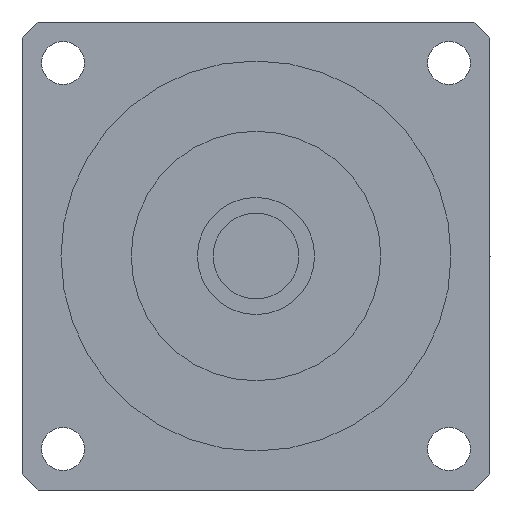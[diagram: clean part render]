
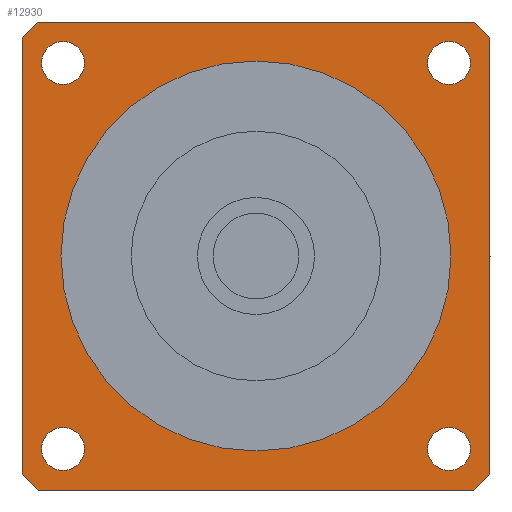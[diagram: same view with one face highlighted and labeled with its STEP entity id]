
A CAD part, left-side view. The second image highlights one B-rep face of the part: STEP entity #12930.
In plain terms, the highlighted planar face has unit normal (-1, 0, 0) as drawn and (0, 0, -1) by its records, which use the part's own axes.
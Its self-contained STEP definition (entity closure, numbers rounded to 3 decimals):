
#8790=CARTESIAN_POINT('',(-24.749,-21.999,-35.5));
#8800=VERTEX_POINT('',#8790);
#8830=CARTESIAN_POINT('',(-24.749,-24.749,-35.5));
#8840=DIRECTION('',(0.,0.,-1.));
#8850=DIRECTION('',(0.,-1.,0.));
#8860=AXIS2_PLACEMENT_3D('',#8830,#8840,#8850);
#8870=CIRCLE('',#8860,2.75);
#8880=CARTESIAN_POINT('',(-24.749,-27.499,-35.5));
#8890=VERTEX_POINT('',#8880);
#8900=EDGE_CURVE('',#8890,#8800,#8870,.T.);
#9140=CARTESIAN_POINT('',(30.,-27.946,-35.5));
#9150=VERTEX_POINT('',#9140);
#9200=CARTESIAN_POINT('',(0.,0.,
-35.5));
#9210=DIRECTION('',(0.,0.,-1.));
#9220=DIRECTION('',(0.,-1.,0.));
#9230=AXIS2_PLACEMENT_3D('',#9200,#9210,#9220);
#9240=CIRCLE('',#9230,41.);
#9250=CARTESIAN_POINT('',(27.946,-30.,-35.5));
#9260=VERTEX_POINT('',#9250);
#9270=EDGE_CURVE('',#9150,#9260,#9240,.T.);
#11440=CARTESIAN_POINT('',(0.,-25.,-35.5));
#11450=VERTEX_POINT('',#11440);
#11480=CARTESIAN_POINT('',(0.,0.,
-35.5));
#11490=DIRECTION('',(0.,0.,1.));
#11500=DIRECTION('',(1.,0.,0.));
#11510=AXIS2_PLACEMENT_3D('',#11480,#11490,#11500);
#11520=CIRCLE('',#11510,25.);
#11530=CARTESIAN_POINT('',(25.,0.,-35.5));
#11540=VERTEX_POINT('',#11530);
#11550=EDGE_CURVE('',#11450,#11540,#11520,.T.);
#11570=CARTESIAN_POINT('',(0.,25.,-35.5));
#11580=VERTEX_POINT('',#11570);
#11590=EDGE_CURVE('',#11540,#11580,#11520,.T.);
#11720=CARTESIAN_POINT('',(30.,-30.,-35.5));
#11730=DIRECTION('',(0.,0.,-1.));
#11740=DIRECTION('',(0.,-1.,0.));
#11750=AXIS2_PLACEMENT_3D('',#11720,#11730,#11740);
#11760=PLANE('',#11750);
#11770=CARTESIAN_POINT('',(-24.749,24.749,-35.5));
#11780=DIRECTION('',(0.,0.,-1.));
#11790=DIRECTION('',(-1.,0.,0.));
#11800=AXIS2_PLACEMENT_3D('',#11770,#11780,#11790);
#11810=CIRCLE('',#11800,2.75);
#11820=CARTESIAN_POINT('',(-27.499,24.749,-35.5));
#11830=VERTEX_POINT('',#11820);
#11840=CARTESIAN_POINT('',(-21.999,24.749,-35.5));
#11850=VERTEX_POINT('',#11840);
#11860=EDGE_CURVE('',#11830,#11850,#11810,.T.);
#11870=ORIENTED_EDGE('',*,*,#11860,.F.);
#11880=EDGE_CURVE('',#11850,#11830,#11810,.T.);
#11890=ORIENTED_EDGE('',*,*,#11880,.F.);
#11900=EDGE_LOOP('',(#11890,#11870));
#11910=FACE_BOUND('',#11900,.T.);
#11920=CARTESIAN_POINT('',(24.749,24.749,-35.5));
#11930=DIRECTION('',(0.,0.,-1.));
#11940=DIRECTION('',(0.,1.,0.));
#11950=AXIS2_PLACEMENT_3D('',#11920,#11930,#11940);
#11960=CIRCLE('',#11950,2.75);
#11970=CARTESIAN_POINT('',(24.749,27.499,-35.5));
#11980=VERTEX_POINT('',#11970);
#11990=CARTESIAN_POINT('',(24.749,21.999,-35.5));
#12000=VERTEX_POINT('',#11990);
#12010=EDGE_CURVE('',#11980,#12000,#11960,.T.);
#12020=ORIENTED_EDGE('',*,*,#12010,.F.);
#12030=EDGE_CURVE('',#12000,#11980,#11960,.T.);
#12040=ORIENTED_EDGE('',*,*,#12030,.F.);
#12050=EDGE_LOOP('',(#12040,#12020));
#12060=FACE_BOUND('',#12050,.T.);
#12070=CARTESIAN_POINT('',(24.749,-24.749,-35.5));
#12080=DIRECTION('',(0.,0.,-1.));
#12090=DIRECTION('',(1.,0.,0.));
#12100=AXIS2_PLACEMENT_3D('',#12070,#12080,#12090);
#12110=CIRCLE('',#12100,2.75);
#12120=CARTESIAN_POINT('',(27.499,-24.749,-35.5));
#12130=VERTEX_POINT('',#12120);
#12140=CARTESIAN_POINT('',(21.999,-24.749,-35.5));
#12150=VERTEX_POINT('',#12140);
#12160=EDGE_CURVE('',#12130,#12150,#12110,.T.);
#12170=ORIENTED_EDGE('',*,*,#12160,.F.);
#12180=EDGE_CURVE('',#12150,#12130,#12110,.T.);
#12190=ORIENTED_EDGE('',*,*,#12180,.F.);
#12200=EDGE_LOOP('',(#12190,#12170));
#12210=FACE_BOUND('',#12200,.T.);
#12220=EDGE_CURVE('',#11580,#11450,#11520,.T.);
#12230=ORIENTED_EDGE('',*,*,#12220,.T.);
#12240=ORIENTED_EDGE('',*,*,#11590,.T.);
#12250=ORIENTED_EDGE('',*,*,#11550,.T.);
#12260=EDGE_LOOP('',(#12250,#12240,#12230));
#12270=FACE_BOUND('',#12260,.T.);
#12280=CARTESIAN_POINT('',(30.,30.,-35.5));
#12290=DIRECTION('',(0.,-1.,0.));
#12300=VECTOR('',#12290,1000.);
#12310=LINE('',#12280,#12300);
#12320=CARTESIAN_POINT('',(30.,27.946,-35.5));
#12330=VERTEX_POINT('',#12320);
#12340=EDGE_CURVE('',#12330,#9150,#12310,.T.);
#12350=ORIENTED_EDGE('',*,*,#12340,.T.);
#12360=CARTESIAN_POINT('',(0.,0.,
-35.5));
#12370=DIRECTION('',(0.,0.,-1.));
#12380=DIRECTION('',(0.,-1.,0.));
#12390=AXIS2_PLACEMENT_3D('',#12360,#12370,#12380);
#12400=CIRCLE('',#12390,41.);
#12410=CARTESIAN_POINT('',(27.946,30.,-35.5));
#12420=VERTEX_POINT('',#12410);
#12430=EDGE_CURVE('',#12420,#12330,#12400,.T.);
#12440=ORIENTED_EDGE('',*,*,#12430,.T.);
#12450=CARTESIAN_POINT('',(-30.,30.,-35.5));
#12460=DIRECTION('',(1.,0.,0.));
#12470=VECTOR('',#12460,1000.);
#12480=LINE('',#12450,#12470);
#12490=CARTESIAN_POINT('',(-27.946,30.,-35.5));
#12500=VERTEX_POINT('',#12490);
#12510=EDGE_CURVE('',#12500,#12420,#12480,.T.);
#12520=ORIENTED_EDGE('',*,*,#12510,.T.);
#12530=CARTESIAN_POINT('',(0.,0.,
-35.5));
#12540=DIRECTION('',(0.,0.,-1.));
#12550=DIRECTION('',(0.,-1.,0.));
#12560=AXIS2_PLACEMENT_3D('',#12530,#12540,#12550);
#12570=CIRCLE('',#12560,41.);
#12580=CARTESIAN_POINT('',(-30.,27.946,-35.5));
#12590=VERTEX_POINT('',#12580);
#12600=EDGE_CURVE('',#12590,#12500,#12570,.T.);
#12610=ORIENTED_EDGE('',*,*,#12600,.T.);
#12620=CARTESIAN_POINT('',(-30.,-30.,-35.5));
#12630=DIRECTION('',(0.,1.,0.));
#12640=VECTOR('',#12630,1000.);
#12650=LINE('',#12620,#12640);
#12660=CARTESIAN_POINT('',(-30.,-27.946,-35.5));
#12670=VERTEX_POINT('',#12660);
#12680=EDGE_CURVE('',#12670,#12590,#12650,.T.);
#12690=ORIENTED_EDGE('',*,*,#12680,.T.);
#12700=CARTESIAN_POINT('',(0.,0.,
-35.5));
#12710=DIRECTION('',(0.,0.,-1.));
#12720=DIRECTION('',(0.,-1.,0.));
#12730=AXIS2_PLACEMENT_3D('',#12700,#12710,#12720);
#12740=CIRCLE('',#12730,41.);
#12750=CARTESIAN_POINT('',(-27.946,-30.,-35.5));
#12760=VERTEX_POINT('',#12750);
#12770=EDGE_CURVE('',#12760,#12670,#12740,.T.);
#12780=ORIENTED_EDGE('',*,*,#12770,.T.);
#12790=CARTESIAN_POINT('',(30.,-30.,-35.5));
#12800=DIRECTION('',(-1.,0.,0.));
#12810=VECTOR('',#12800,1000.);
#12820=LINE('',#12790,#12810);
#12830=EDGE_CURVE('',#9260,#12760,#12820,.T.);
#12840=ORIENTED_EDGE('',*,*,#12830,.T.);
#12850=ORIENTED_EDGE('',*,*,#9270,.T.);
#12860=EDGE_LOOP('',(#12850,#12840,#12780,#12690,#12610,#12520,#12440,
#12350));
#12870=FACE_OUTER_BOUND('',#12860,.T.);
#12880=ORIENTED_EDGE('',*,*,#8900,.F.);
#12890=EDGE_CURVE('',#8800,#8890,#8870,.T.);
#12900=ORIENTED_EDGE('',*,*,#12890,.F.);
#12910=EDGE_LOOP('',(#12900,#12880));
#12920=FACE_BOUND('',#12910,.T.);
#12930=ADVANCED_FACE('',(#11910,#12060,#12210,#12270,#12870,#12920),
#11760,.T.);
